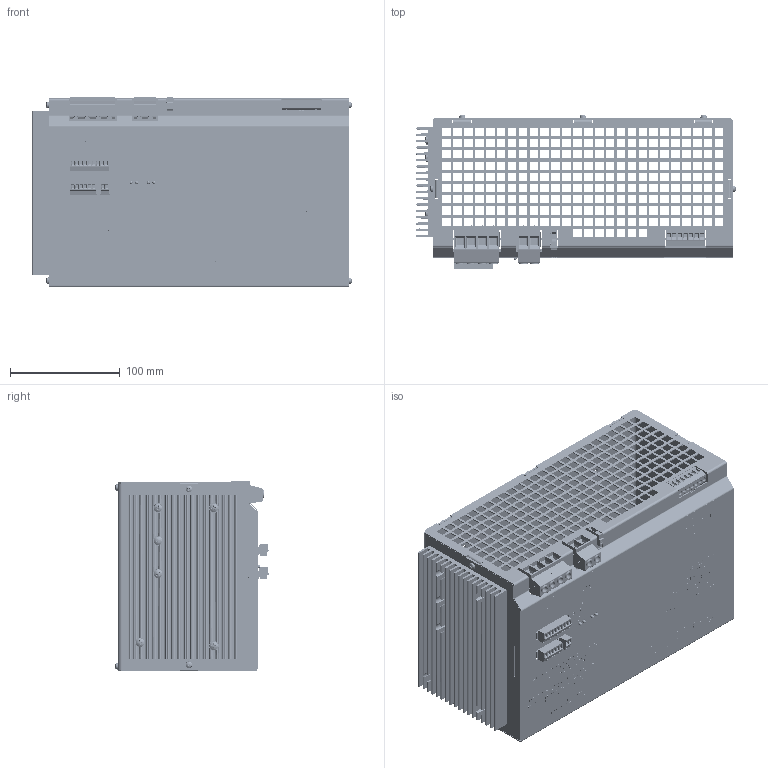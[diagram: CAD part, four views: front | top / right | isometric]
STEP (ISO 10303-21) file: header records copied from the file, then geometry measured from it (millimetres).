
FILE_DESCRIPTION(/* description */ (''),/* implementation_level */ '2;1');
FILE_NAME(/* name */ 'C:\VAULT_WORKSPACE\Designs\EE\P33G01001\P33G01-0001.stp',/* time_stamp */ '2015-10-09T11:11:42+02:00',/* author */ ('aj'),/* organization */ (''),/* preprocessor_version */ 'ST-DEVELOPER v15.6',/* originating_system */ 'Autodesk Inventor 2015',/* authorisation */ '');
FILE_SCHEMA (('AUTOMOTIVE_DESIGN { 1 0 10303 214 3 1 1 }'));
Products named in the file (22): P33G01-6010; P33G01-6020; P33G01-6030; MKDSP10-2-10.16; mc_1.5-9-G-3.81; MSTB 2,5-7-G-5,08; MSTB 2,5-7-ST-5,08; mc_1.5-9-st-3.81; MC 1,5-6-G-3,81; MC 1,5-6-ST-3,81; KDS 2,5 Print Einzelklemme; MC 1,5 2-ST-3,5; MC 1,5 2-G-3,5; P33G01-1060; P33G01-1070; ANSI B18.6.5M - 4.2x1.4 x 8(21); DIN 7985 (H) - M3x6-H; P33G01-7000; P33G01-7050; P33G01-7060; CE_Kennzeichnung; P33G01-0001
Assembly tree (39 placements, depth 2):
  P33G01-0001
    P33G01-6010
    P33G01-6020
    P33G01-6030
    MKDSP10-2-10.16  x3
    mc_1.5-9-G-3.81
    MSTB 2,5-7-G-5,08
    MSTB 2,5-7-ST-5,08
    mc_1.5-9-st-3.81
    MC 1,5-6-G-3,81
    MC 1,5-6-ST-3,81
    KDS 2,5 Print Einzelklemme
    MC 1,5 2-ST-3,5
    MC 1,5 2-G-3,5
    P33G01-1060  x3
    P33G01-1070
    ANSI B18.6.5M - 4.2x1.4 x 8(21)  x6
    DIN 7985 (H) - M3x6-H  x10
    P33G01-7000
    P33G01-7050
    P33G01-7060
    CE_Kennzeichnung
Bounding box: 291.94 x 140.64 x 174.1 mm (x, y, z)
Volume: 421322.2 mm3; surface area: 482636.8 mm2
Topology: 591 solids, 591 shells, 15013 faces, 39216 edges, 25828 vertices
Faces by surface type: plane 10323, bspline 3240, cylinder 1022, cone 286, torus 85, sphere 57
Full cylindrical faces by diameter (mm): 0.434 x1, 0.457 x10, 0.609 x1, 1.2 x17, 1.25 x20, 1.4 x11, 1.5 x12, 1.6 x28, 1.75 x2, 2.1 x10, 2.3 x12, 2.5 x1, 2.75 x10, 2.8 x33, 2.9 x17, 3 x10, 3.2 x12, 3.5 x7, 3.783 x8, 3.8 x4, 4 x8, 4.2 x6, 4.5 x4, 5 x10, 5.6 x6, 7.8 x6
Entity records: 461534 total; most frequent: CARTESIAN_POINT 122529, ORIENTED_EDGE 72992, DIRECTION 53981, EDGE_CURVE 36496, LINE 27157, VECTOR 27157, VERTEX_POINT 24196, EDGE_LOOP 16298
